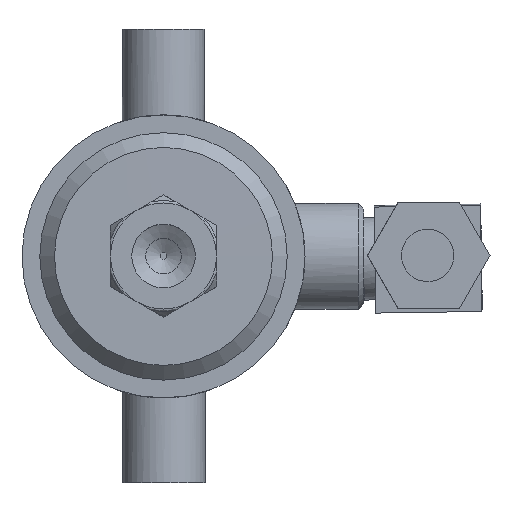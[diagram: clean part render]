
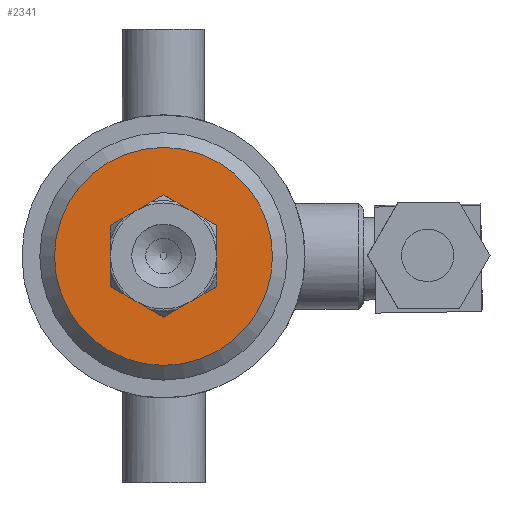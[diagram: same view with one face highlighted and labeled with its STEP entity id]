
A CAD part, left-side view. The second image highlights one B-rep face of the part: STEP entity #2341.
In plain terms, the highlighted conical face has half-angle 89.797 degrees and reference radius 9.647 mm.
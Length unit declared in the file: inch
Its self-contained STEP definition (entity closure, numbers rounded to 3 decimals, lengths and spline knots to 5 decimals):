
#139=CONICAL_SURFACE('',#2576,0.37981,1.567);
#261=FACE_BOUND('',#577,.T.);
#388=FACE_OUTER_BOUND('',#576,.T.);
#576=EDGE_LOOP('',(#1851));
#577=EDGE_LOOP('',(#1852));
#991=CIRCLE('',#2574,0.182);
#993=CIRCLE('',#2577,0.57763);
#1162=VERTEX_POINT('',#4003);
#1164=VERTEX_POINT('',#4008);
#1428=EDGE_CURVE('',#1162,#1162,#991,.T.);
#1430=EDGE_CURVE('',#1164,#1164,#993,.T.);
#1851=ORIENTED_EDGE('',*,*,#1430,.F.);
#1852=ORIENTED_EDGE('',*,*,#1428,.T.);
#2341=ADVANCED_FACE('',(#388,#261),#139,.T.);
#2574=AXIS2_PLACEMENT_3D('',#4004,#3022,#3023);
#2576=AXIS2_PLACEMENT_3D('',#4007,#3026,#3027);
#2577=AXIS2_PLACEMENT_3D('',#4009,#3028,#3029);
#3022=DIRECTION('center_axis',(1.,0.,0.));
#3023=DIRECTION('ref_axis',(0.,0.,
-1.));
#3026=DIRECTION('center_axis',(1.,0.,0.));
#3027=DIRECTION('ref_axis',(0.,1.,0.));
#3028=DIRECTION('center_axis',(1.,0.,0.));
#3029=DIRECTION('ref_axis',(0.,0.,
-1.));
#4003=CARTESIAN_POINT('',(25.77966,1.39897,0.30699));
#4004=CARTESIAN_POINT('Origin',(25.77966,1.21697,0.30699));
#4007=CARTESIAN_POINT('Origin',(25.78036,1.21697,0.30699));
#4008=CARTESIAN_POINT('',(25.78105,1.7946,0.30699));
#4009=CARTESIAN_POINT('Origin',(25.78105,1.21697,0.30699));
